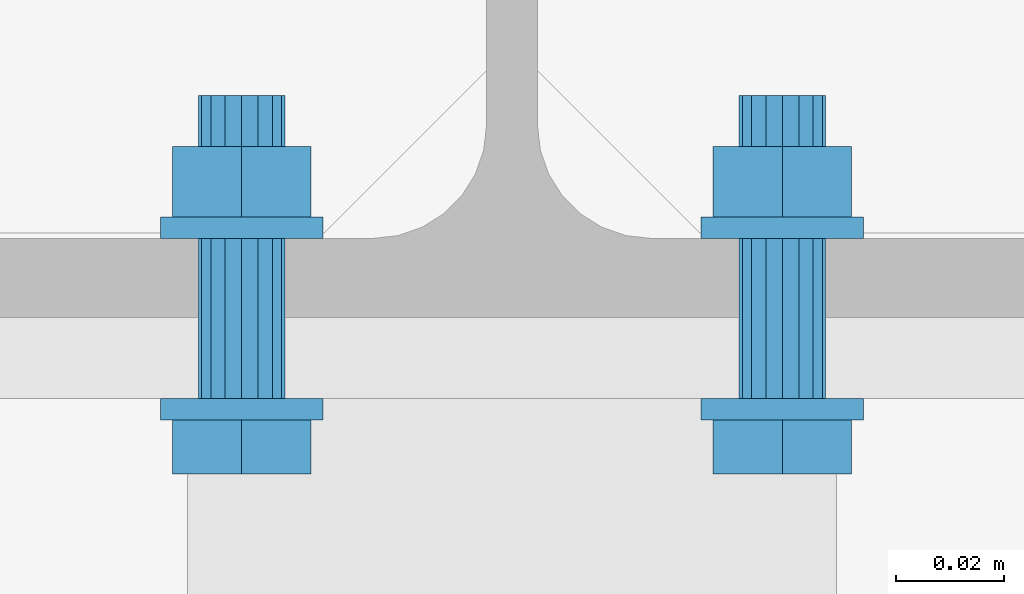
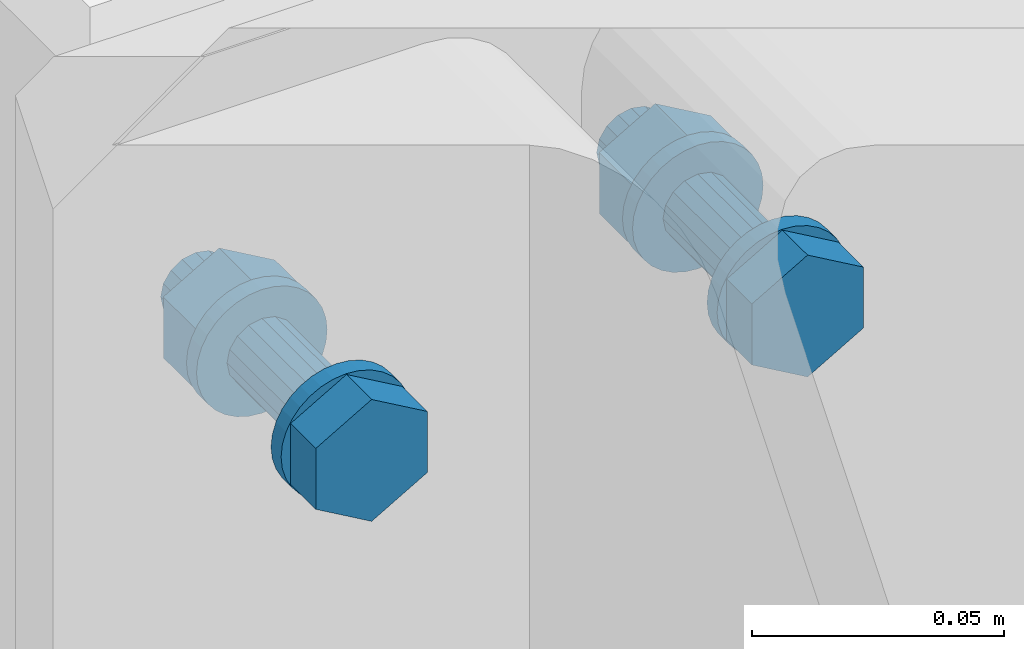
# Not in any storey, part 30 of 50: 2 mechanical fasteners.
"""IFC4 model written with IfcOpenShell, lengths in metres."""

from ifc_helpers import new_model, entity, si_unit, converted_unit, derived_unit, direction, origin, origin_with_axes, place, context, project, spatial, faceted_brep, element, save


model = new_model("IFC4")

# Units and contexts
model_context = context("Model", 3, precision=1e-05, world=origin(), true_north=direction((6.123233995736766e-17, 1.0)))
ifc_project = project(units=[si_unit("LENGTHUNIT", "METRE"), si_unit("AREAUNIT", "SQUARE_METRE"), converted_unit("PLANEANGLEUNIT", "DEGREE", entity("IfcPlaneAngleMeasure", 0.017453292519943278), si_unit("PLANEANGLEUNIT", "RADIAN"), dimensions=[0, 0, 0, 0, 0, 0, 0]), si_unit("VOLUMEUNIT", "CUBIC_METRE"), derived_unit("THERMALTRANSMITTANCEUNIT", [(si_unit("MASSUNIT", "GRAM", prefix="KILO"), 1), (si_unit("THERMODYNAMICTEMPERATUREUNIT", "KELVIN"), -1), (si_unit("TIMEUNIT", "SECOND"), -3)])], contexts=[model_context])

# Site
site_placement = place(None, origin())
site = spatial("IfcSite", under=ifc_project, at=site_placement, Name="Default", CompositionType="ELEMENT")

# Mechanical fasteners
mechanical_fastener_1_placement = place(site_placement, origin_with_axes())
element("IfcMechanicalFastener", 1, at=mechanical_fastener_1_placement, inside=site, ObjectType="Bolt#1", NominalDiameter=0.016, NominalLength=0.06, context=model_context, shape_type="Brep", body=[
    faceted_brep([(3.225144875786, 17.685767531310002, 5.895), (3.225144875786, 17.68976753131, 5.895), (3.2254330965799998, 17.68976753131, 5.89207364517), (3.2254330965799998, 17.685767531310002, 5.89207364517), (3.226286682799, 17.68976753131, 5.889259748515), (3.226286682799, 17.685767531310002, 5.889259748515), (3.227672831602, 17.68976753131, 5.886666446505), (3.227672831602, 17.685767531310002, 5.886666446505), (3.229538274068, 17.68976753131, 5.884393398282), (3.229538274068, 17.685767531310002, 5.884393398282), (3.231811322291, 17.68976753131, 5.882527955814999), (3.231811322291, 17.685767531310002, 5.882527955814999), (3.234404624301, 17.68976753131, 5.881141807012), (3.234404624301, 17.685767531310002, 5.881141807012), (3.2372185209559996, 17.68976753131, 5.880288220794), (3.2372185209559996, 17.685767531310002, 5.880288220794), (3.2401448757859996, 17.68976753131, 5.88), (3.2401448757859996, 17.685767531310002, 5.88), (3.2430712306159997, 17.68976753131, 5.880288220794), (3.2430712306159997, 17.685767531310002, 5.880288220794), (3.245885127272, 17.68976753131, 5.881141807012), (3.245885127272, 17.685767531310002, 5.881141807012), (3.248478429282, 17.68976753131, 5.882527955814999), (3.248478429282, 17.685767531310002, 5.882527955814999), (3.250751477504, 17.68976753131, 5.884393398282), (3.250751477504, 17.685767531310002, 5.884393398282), (3.252616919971, 17.68976753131, 5.886666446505), (3.252616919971, 17.685767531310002, 5.886666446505), (3.254003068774, 17.68976753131, 5.889259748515), (3.254003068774, 17.685767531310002, 5.889259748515), (3.254856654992, 17.68976753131, 5.89207364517), (3.254856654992, 17.685767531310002, 5.89207364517), (3.2551448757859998, 17.68976753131, 5.895), (3.2551448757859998, 17.685767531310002, 5.895), (3.254856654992, 17.68976753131, 5.897926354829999), (3.254856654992, 17.685767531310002, 5.897926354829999), (3.254003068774, 17.68976753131, 5.900740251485), (3.254003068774, 17.685767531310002, 5.900740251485), (3.252616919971, 17.68976753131, 5.903333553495), (3.252616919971, 17.685767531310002, 5.903333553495), (3.250751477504, 17.68976753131, 5.9056066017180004), (3.250751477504, 17.685767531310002, 5.9056066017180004), (3.248478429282, 17.68976753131, 5.907472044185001), (3.248478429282, 17.685767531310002, 5.907472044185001), (3.245885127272, 17.68976753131, 5.908858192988), (3.245885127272, 17.685767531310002, 5.908858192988), (3.2430712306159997, 17.68976753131, 5.909711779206), (3.2430712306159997, 17.685767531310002, 5.909711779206), (3.2401448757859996, 17.68976753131, 5.91), (3.2401448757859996, 17.685767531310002, 5.91), (3.2372185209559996, 17.68976753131, 5.909711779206), (3.2372185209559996, 17.685767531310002, 5.909711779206), (3.234404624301, 17.68976753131, 5.908858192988), (3.234404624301, 17.685767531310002, 5.908858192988), (3.231811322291, 17.68976753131, 5.907472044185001), (3.231811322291, 17.685767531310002, 5.907472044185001), (3.229538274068, 17.68976753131, 5.9056066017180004), (3.229538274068, 17.685767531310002, 5.9056066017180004), (3.227672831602, 17.68976753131, 5.903333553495), (3.227672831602, 17.685767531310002, 5.903333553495), (3.226286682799, 17.68976753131, 5.900740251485), (3.226286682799, 17.685767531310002, 5.900740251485), (3.2254330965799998, 17.68976753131, 5.897926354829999), (3.2254330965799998, 17.685767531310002, 5.897926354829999)], [[[0, 1, 2, 3]], [[3, 2, 4, 5]], [[5, 4, 6, 7]], [[7, 6, 8, 9]], [[9, 8, 10, 11]], [[11, 10, 12, 13]], [[13, 12, 14, 15]], [[15, 14, 16, 17]], [[17, 16, 18, 19]], [[19, 18, 20, 21]], [[21, 20, 22, 23]], [[23, 22, 24, 25]], [[25, 24, 26, 27]], [[27, 26, 28, 29]], [[29, 28, 30, 31]], [[31, 30, 32, 33]], [[33, 32, 34, 35]], [[35, 34, 36, 37]], [[37, 36, 38, 39]], [[39, 38, 40, 41]], [[41, 40, 42, 43]], [[43, 42, 44, 45]], [[45, 44, 46, 47]], [[47, 46, 48, 49]], [[49, 48, 50, 51]], [[51, 50, 52, 53]], [[53, 52, 54, 55]], [[55, 54, 56, 57]], [[57, 56, 58, 59]], [[59, 58, 60, 61]], [[61, 60, 62, 63]], [[63, 62, 1, 0]], [[0, 3, 5, 7, 9, 11, 13, 15, 17, 19, 21, 23, 25, 27, 29, 31, 33, 35, 37, 39, 41, 43, 45, 47, 49, 51, 53, 55, 57, 59, 61, 63]], [[1, 62, 60, 58, 56, 54, 52, 50, 48, 46, 44, 42, 40, 38, 36, 34, 32, 30, 28, 26, 24, 22, 20, 18, 16, 14, 12, 10, 8, 6, 4, 2]]]),
    faceted_brep([(3.2529447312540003, 17.685767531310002, 5.88761), (3.2529447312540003, 17.67576753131, 5.88761), (3.2401448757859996, 17.67576753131, 5.8802200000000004), (3.2401448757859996, 17.685767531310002, 5.8802200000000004), (3.227345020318, 17.67576753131, 5.88761), (3.227345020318, 17.685767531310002, 5.88761), (3.227345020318, 17.67576753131, 5.9023900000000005), (3.227345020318, 17.685767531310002, 5.9023900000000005), (3.2401448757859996, 17.67576753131, 5.90978), (3.2401448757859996, 17.685767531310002, 5.90978), (3.2529447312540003, 17.67576753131, 5.9023900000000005), (3.2529447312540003, 17.685767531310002, 5.9023900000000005)], [[[0, 1, 2, 3]], [[3, 2, 4, 5]], [[5, 4, 6, 7]], [[7, 6, 8, 9]], [[9, 8, 10, 11]], [[11, 10, 1, 0]], [[4, 2, 1, 10, 8, 6]], [[0, 3, 5, 7, 9, 11]]]),
    faceted_brep([(3.2321448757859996, 17.68976753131, 5.895), (3.2321448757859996, 17.71936753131, 5.895), (3.232753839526, 17.71936753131, 5.891938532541), (3.232753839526, 17.68976753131, 5.891938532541), (3.234488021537, 17.71936753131, 5.889343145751), (3.234488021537, 17.68976753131, 5.889343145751), (3.237083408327, 17.71936753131, 5.88760896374), (3.237083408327, 17.68976753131, 5.88760896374), (3.2401448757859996, 17.71936753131, 5.887), (3.2401448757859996, 17.68976753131, 5.887), (3.243206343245, 17.71936753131, 5.88760896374), (3.243206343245, 17.68976753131, 5.88760896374), (3.2458017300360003, 17.71936753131, 5.889343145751), (3.2458017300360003, 17.68976753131, 5.889343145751), (3.2475359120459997, 17.71936753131, 5.891938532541), (3.2475359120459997, 17.68976753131, 5.891938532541), (3.2481448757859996, 17.71936753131, 5.895), (3.2481448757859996, 17.68976753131, 5.895), (3.2475359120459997, 17.71936753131, 5.898061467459), (3.2475359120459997, 17.68976753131, 5.898061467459), (3.2458017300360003, 17.71936753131, 5.900656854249), (3.2458017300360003, 17.68976753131, 5.900656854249), (3.243206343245, 17.71936753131, 5.90239103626), (3.243206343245, 17.68976753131, 5.90239103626), (3.2401448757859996, 17.71936753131, 5.903), (3.2401448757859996, 17.68976753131, 5.903), (3.237083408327, 17.71936753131, 5.90239103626), (3.237083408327, 17.68976753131, 5.90239103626), (3.234488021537, 17.71936753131, 5.900656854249), (3.234488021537, 17.68976753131, 5.900656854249), (3.232753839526, 17.71936753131, 5.898061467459), (3.232753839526, 17.68976753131, 5.898061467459)], [[[0, 1, 2, 3]], [[3, 2, 4, 5]], [[5, 4, 6, 7]], [[7, 6, 8, 9]], [[9, 8, 10, 11]], [[11, 10, 12, 13]], [[13, 12, 14, 15]], [[15, 14, 16, 17]], [[17, 16, 18, 19]], [[19, 18, 20, 21]], [[21, 20, 22, 23]], [[23, 22, 24, 25]], [[25, 24, 26, 27]], [[27, 26, 28, 29]], [[29, 28, 30, 31]], [[31, 30, 1, 0]], [[0, 3, 5, 7, 9, 11, 13, 15, 17, 19, 21, 23, 25, 27, 29, 31]], [[1, 30, 28, 26, 24, 22, 20, 18, 16, 14, 12, 10, 8, 6, 4, 2]]]),
    faceted_brep([(3.225144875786, 17.71936753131, 5.895), (3.225144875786, 17.72336753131, 5.895), (3.2254330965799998, 17.72336753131, 5.89207364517), (3.2254330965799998, 17.71936753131, 5.89207364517), (3.226286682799, 17.72336753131, 5.889259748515), (3.226286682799, 17.71936753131, 5.889259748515), (3.227672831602, 17.72336753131, 5.886666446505), (3.227672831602, 17.71936753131, 5.886666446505), (3.229538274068, 17.72336753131, 5.884393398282), (3.229538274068, 17.71936753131, 5.884393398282), (3.231811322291, 17.72336753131, 5.882527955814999), (3.231811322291, 17.71936753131, 5.882527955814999), (3.234404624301, 17.72336753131, 5.881141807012), (3.234404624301, 17.71936753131, 5.881141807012), (3.2372185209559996, 17.72336753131, 5.880288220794), (3.2372185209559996, 17.71936753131, 5.880288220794), (3.2401448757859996, 17.72336753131, 5.88), (3.2401448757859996, 17.71936753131, 5.88), (3.2430712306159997, 17.72336753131, 5.880288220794), (3.2430712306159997, 17.71936753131, 5.880288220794), (3.245885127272, 17.72336753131, 5.881141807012), (3.245885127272, 17.71936753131, 5.881141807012), (3.248478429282, 17.72336753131, 5.882527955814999), (3.248478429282, 17.71936753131, 5.882527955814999), (3.250751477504, 17.72336753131, 5.884393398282), (3.250751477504, 17.71936753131, 5.884393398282), (3.252616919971, 17.72336753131, 5.886666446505), (3.252616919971, 17.71936753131, 5.886666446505), (3.254003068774, 17.72336753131, 5.889259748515), (3.254003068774, 17.71936753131, 5.889259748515), (3.254856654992, 17.72336753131, 5.89207364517), (3.254856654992, 17.71936753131, 5.89207364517), (3.2551448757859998, 17.72336753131, 5.895), (3.2551448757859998, 17.71936753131, 5.895), (3.254856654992, 17.72336753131, 5.897926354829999), (3.254856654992, 17.71936753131, 5.897926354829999), (3.254003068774, 17.72336753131, 5.900740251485), (3.254003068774, 17.71936753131, 5.900740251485), (3.252616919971, 17.72336753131, 5.903333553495), (3.252616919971, 17.71936753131, 5.903333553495), (3.250751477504, 17.72336753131, 5.9056066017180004), (3.250751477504, 17.71936753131, 5.9056066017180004), (3.248478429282, 17.72336753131, 5.907472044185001), (3.248478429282, 17.71936753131, 5.907472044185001), (3.245885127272, 17.72336753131, 5.908858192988), (3.245885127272, 17.71936753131, 5.908858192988), (3.2430712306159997, 17.72336753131, 5.909711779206), (3.2430712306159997, 17.71936753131, 5.909711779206), (3.2401448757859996, 17.72336753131, 5.91), (3.2401448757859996, 17.71936753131, 5.91), (3.2372185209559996, 17.72336753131, 5.909711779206), (3.2372185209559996, 17.71936753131, 5.909711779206), (3.234404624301, 17.72336753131, 5.908858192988), (3.234404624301, 17.71936753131, 5.908858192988), (3.231811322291, 17.72336753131, 5.907472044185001), (3.231811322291, 17.71936753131, 5.907472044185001), (3.229538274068, 17.72336753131, 5.9056066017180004), (3.229538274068, 17.71936753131, 5.9056066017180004), (3.227672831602, 17.72336753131, 5.903333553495), (3.227672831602, 17.71936753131, 5.903333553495), (3.226286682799, 17.72336753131, 5.900740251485), (3.226286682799, 17.71936753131, 5.900740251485), (3.2254330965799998, 17.72336753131, 5.897926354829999), (3.2254330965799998, 17.71936753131, 5.897926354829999)], [[[0, 1, 2, 3]], [[3, 2, 4, 5]], [[5, 4, 6, 7]], [[7, 6, 8, 9]], [[9, 8, 10, 11]], [[11, 10, 12, 13]], [[13, 12, 14, 15]], [[15, 14, 16, 17]], [[17, 16, 18, 19]], [[19, 18, 20, 21]], [[21, 20, 22, 23]], [[23, 22, 24, 25]], [[25, 24, 26, 27]], [[27, 26, 28, 29]], [[29, 28, 30, 31]], [[31, 30, 32, 33]], [[33, 32, 34, 35]], [[35, 34, 36, 37]], [[37, 36, 38, 39]], [[39, 38, 40, 41]], [[41, 40, 42, 43]], [[43, 42, 44, 45]], [[45, 44, 46, 47]], [[47, 46, 48, 49]], [[49, 48, 50, 51]], [[51, 50, 52, 53]], [[53, 52, 54, 55]], [[55, 54, 56, 57]], [[57, 56, 58, 59]], [[59, 58, 60, 61]], [[61, 60, 62, 63]], [[63, 62, 1, 0]], [[0, 3, 5, 7, 9, 11, 13, 15, 17, 19, 21, 23, 25, 27, 29, 31, 33, 35, 37, 39, 41, 43, 45, 47, 49, 51, 53, 55, 57, 59, 61, 63]], [[1, 62, 60, 58, 56, 54, 52, 50, 48, 46, 44, 42, 40, 38, 36, 34, 32, 30, 28, 26, 24, 22, 20, 18, 16, 14, 12, 10, 8, 6, 4, 2]]]),
    faceted_brep([(3.2529447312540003, 17.736367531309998, 5.88761), (3.2529447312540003, 17.72336753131, 5.88761), (3.2401448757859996, 17.72336753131, 5.8802200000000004), (3.2401448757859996, 17.736367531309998, 5.8802200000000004), (3.227345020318, 17.72336753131, 5.88761), (3.227345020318, 17.736367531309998, 5.88761), (3.227345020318, 17.72336753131, 5.9023900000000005), (3.227345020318, 17.736367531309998, 5.9023900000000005), (3.2401448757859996, 17.72336753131, 5.90978), (3.2401448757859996, 17.736367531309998, 5.90978), (3.2529447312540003, 17.72336753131, 5.9023900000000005), (3.2529447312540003, 17.736367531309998, 5.9023900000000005)], [[[0, 1, 2, 3]], [[3, 2, 4, 5]], [[5, 4, 6, 7]], [[7, 6, 8, 9]], [[9, 8, 10, 11]], [[11, 10, 1, 0]], [[4, 2, 1, 10, 8, 6]], [[0, 3, 5, 7, 9, 11]]]),
    faceted_brep([(3.2321448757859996, 17.736367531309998, 5.895), (3.2321448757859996, 17.74576753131, 5.895), (3.232753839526, 17.74576753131, 5.891938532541), (3.232753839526, 17.736367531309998, 5.891938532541), (3.234488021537, 17.74576753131, 5.889343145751), (3.234488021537, 17.736367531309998, 5.889343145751), (3.237083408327, 17.74576753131, 5.88760896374), (3.237083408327, 17.736367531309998, 5.88760896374), (3.2401448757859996, 17.74576753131, 5.887), (3.2401448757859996, 17.736367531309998, 5.887), (3.243206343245, 17.74576753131, 5.88760896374), (3.243206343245, 17.736367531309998, 5.88760896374), (3.2458017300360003, 17.74576753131, 5.889343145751), (3.2458017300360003, 17.736367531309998, 5.889343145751), (3.2475359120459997, 17.74576753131, 5.891938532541), (3.2475359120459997, 17.736367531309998, 5.891938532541), (3.2481448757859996, 17.74576753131, 5.895), (3.2481448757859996, 17.736367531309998, 5.895), (3.2475359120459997, 17.74576753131, 5.898061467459), (3.2475359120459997, 17.736367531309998, 5.898061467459), (3.2458017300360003, 17.74576753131, 5.900656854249), (3.2458017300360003, 17.736367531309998, 5.900656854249), (3.243206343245, 17.74576753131, 5.90239103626), (3.243206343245, 17.736367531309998, 5.90239103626), (3.2401448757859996, 17.74576753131, 5.903), (3.2401448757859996, 17.736367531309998, 5.903), (3.237083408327, 17.74576753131, 5.90239103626), (3.237083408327, 17.736367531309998, 5.90239103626), (3.234488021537, 17.74576753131, 5.900656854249), (3.234488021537, 17.736367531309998, 5.900656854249), (3.232753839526, 17.74576753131, 5.898061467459), (3.232753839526, 17.736367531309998, 5.898061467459)], [[[0, 1, 2, 3]], [[3, 2, 4, 5]], [[5, 4, 6, 7]], [[7, 6, 8, 9]], [[9, 8, 10, 11]], [[11, 10, 12, 13]], [[13, 12, 14, 15]], [[15, 14, 16, 17]], [[17, 16, 18, 19]], [[19, 18, 20, 21]], [[21, 20, 22, 23]], [[23, 22, 24, 25]], [[25, 24, 26, 27]], [[27, 26, 28, 29]], [[29, 28, 30, 31]], [[31, 30, 1, 0]], [[0, 3, 5, 7, 9, 11, 13, 15, 17, 19, 21, 23, 25, 27, 29, 31]], [[1, 30, 28, 26, 24, 22, 20, 18, 16, 14, 12, 10, 8, 6, 4, 2]]]),
])
mechanical_fastener_2_placement = place(site_placement, origin_with_axes())
element("IfcMechanicalFastener", 2, at=mechanical_fastener_2_placement, inside=site, ObjectType="Bolt#2", NominalDiameter=0.016, NominalLength=0.06, context=model_context, shape_type="Brep", body=[
    faceted_brep([(3.125144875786, 17.685767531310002, 5.895), (3.125144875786, 17.68976753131, 5.895), (3.12543309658, 17.68976753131, 5.89207364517), (3.12543309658, 17.685767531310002, 5.89207364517), (3.126286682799, 17.68976753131, 5.889259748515), (3.126286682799, 17.685767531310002, 5.889259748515), (3.1276728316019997, 17.68976753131, 5.886666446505), (3.1276728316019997, 17.685767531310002, 5.886666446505), (3.129538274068, 17.68976753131, 5.884393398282), (3.129538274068, 17.685767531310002, 5.884393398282), (3.131811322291, 17.68976753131, 5.882527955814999), (3.131811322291, 17.685767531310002, 5.882527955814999), (3.1344046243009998, 17.68976753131, 5.881141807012), (3.1344046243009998, 17.685767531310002, 5.881141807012), (3.137218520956, 17.68976753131, 5.880288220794), (3.137218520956, 17.685767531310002, 5.880288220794), (3.140144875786, 17.68976753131, 5.88), (3.140144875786, 17.685767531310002, 5.88), (3.143071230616, 17.68976753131, 5.880288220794), (3.143071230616, 17.685767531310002, 5.880288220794), (3.145885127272, 17.68976753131, 5.881141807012), (3.145885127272, 17.685767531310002, 5.881141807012), (3.148478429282, 17.68976753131, 5.882527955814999), (3.148478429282, 17.685767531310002, 5.882527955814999), (3.150751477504, 17.68976753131, 5.884393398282), (3.150751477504, 17.685767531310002, 5.884393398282), (3.152616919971, 17.68976753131, 5.886666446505), (3.152616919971, 17.685767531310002, 5.886666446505), (3.154003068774, 17.68976753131, 5.889259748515), (3.154003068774, 17.685767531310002, 5.889259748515), (3.1548566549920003, 17.68976753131, 5.89207364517), (3.1548566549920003, 17.685767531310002, 5.89207364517), (3.1551448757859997, 17.68976753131, 5.895), (3.1551448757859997, 17.685767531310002, 5.895), (3.1548566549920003, 17.68976753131, 5.897926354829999), (3.1548566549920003, 17.685767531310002, 5.897926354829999), (3.154003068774, 17.68976753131, 5.900740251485), (3.154003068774, 17.685767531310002, 5.900740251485), (3.152616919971, 17.68976753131, 5.903333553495), (3.152616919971, 17.685767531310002, 5.903333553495), (3.150751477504, 17.68976753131, 5.9056066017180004), (3.150751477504, 17.685767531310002, 5.9056066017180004), (3.148478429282, 17.68976753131, 5.907472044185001), (3.148478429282, 17.685767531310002, 5.907472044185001), (3.145885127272, 17.68976753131, 5.908858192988), (3.145885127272, 17.685767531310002, 5.908858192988), (3.143071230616, 17.68976753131, 5.909711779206), (3.143071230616, 17.685767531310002, 5.909711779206), (3.140144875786, 17.68976753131, 5.91), (3.140144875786, 17.685767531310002, 5.91), (3.137218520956, 17.68976753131, 5.909711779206), (3.137218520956, 17.685767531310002, 5.909711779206), (3.1344046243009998, 17.68976753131, 5.908858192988), (3.1344046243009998, 17.685767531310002, 5.908858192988), (3.131811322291, 17.68976753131, 5.907472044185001), (3.131811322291, 17.685767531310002, 5.907472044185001), (3.129538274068, 17.68976753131, 5.9056066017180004), (3.129538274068, 17.685767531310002, 5.9056066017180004), (3.1276728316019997, 17.68976753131, 5.903333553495), (3.1276728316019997, 17.685767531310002, 5.903333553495), (3.126286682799, 17.68976753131, 5.900740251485), (3.126286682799, 17.685767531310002, 5.900740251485), (3.12543309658, 17.68976753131, 5.897926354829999), (3.12543309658, 17.685767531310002, 5.897926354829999)], [[[0, 1, 2, 3]], [[3, 2, 4, 5]], [[5, 4, 6, 7]], [[7, 6, 8, 9]], [[9, 8, 10, 11]], [[11, 10, 12, 13]], [[13, 12, 14, 15]], [[15, 14, 16, 17]], [[17, 16, 18, 19]], [[19, 18, 20, 21]], [[21, 20, 22, 23]], [[23, 22, 24, 25]], [[25, 24, 26, 27]], [[27, 26, 28, 29]], [[29, 28, 30, 31]], [[31, 30, 32, 33]], [[33, 32, 34, 35]], [[35, 34, 36, 37]], [[37, 36, 38, 39]], [[39, 38, 40, 41]], [[41, 40, 42, 43]], [[43, 42, 44, 45]], [[45, 44, 46, 47]], [[47, 46, 48, 49]], [[49, 48, 50, 51]], [[51, 50, 52, 53]], [[53, 52, 54, 55]], [[55, 54, 56, 57]], [[57, 56, 58, 59]], [[59, 58, 60, 61]], [[61, 60, 62, 63]], [[63, 62, 1, 0]], [[0, 3, 5, 7, 9, 11, 13, 15, 17, 19, 21, 23, 25, 27, 29, 31, 33, 35, 37, 39, 41, 43, 45, 47, 49, 51, 53, 55, 57, 59, 61, 63]], [[1, 62, 60, 58, 56, 54, 52, 50, 48, 46, 44, 42, 40, 38, 36, 34, 32, 30, 28, 26, 24, 22, 20, 18, 16, 14, 12, 10, 8, 6, 4, 2]]]),
    faceted_brep([(3.152944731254, 17.685767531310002, 5.88761), (3.152944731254, 17.67576753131, 5.88761), (3.140144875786, 17.67576753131, 5.8802200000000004), (3.140144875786, 17.685767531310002, 5.8802200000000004), (3.127345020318, 17.67576753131, 5.88761), (3.127345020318, 17.685767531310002, 5.88761), (3.127345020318, 17.67576753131, 5.9023900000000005), (3.127345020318, 17.685767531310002, 5.9023900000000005), (3.140144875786, 17.67576753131, 5.90978), (3.140144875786, 17.685767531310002, 5.90978), (3.152944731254, 17.67576753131, 5.9023900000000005), (3.152944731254, 17.685767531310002, 5.9023900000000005)], [[[0, 1, 2, 3]], [[3, 2, 4, 5]], [[5, 4, 6, 7]], [[7, 6, 8, 9]], [[9, 8, 10, 11]], [[11, 10, 1, 0]], [[4, 2, 1, 10, 8, 6]], [[0, 3, 5, 7, 9, 11]]]),
    faceted_brep([(3.132144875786, 17.68976753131, 5.895), (3.132144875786, 17.71936753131, 5.895), (3.132753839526, 17.71936753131, 5.891938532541), (3.132753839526, 17.68976753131, 5.891938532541), (3.134488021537, 17.71936753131, 5.889343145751), (3.134488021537, 17.68976753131, 5.889343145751), (3.1370834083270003, 17.71936753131, 5.88760896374), (3.1370834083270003, 17.68976753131, 5.88760896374), (3.140144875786, 17.71936753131, 5.887), (3.140144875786, 17.68976753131, 5.887), (3.143206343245, 17.71936753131, 5.88760896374), (3.143206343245, 17.68976753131, 5.88760896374), (3.145801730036, 17.71936753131, 5.889343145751), (3.145801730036, 17.68976753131, 5.889343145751), (3.1475359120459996, 17.71936753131, 5.891938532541), (3.1475359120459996, 17.68976753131, 5.891938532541), (3.148144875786, 17.71936753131, 5.895), (3.148144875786, 17.68976753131, 5.895), (3.1475359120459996, 17.71936753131, 5.898061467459), (3.1475359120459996, 17.68976753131, 5.898061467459), (3.145801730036, 17.71936753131, 5.900656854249), (3.145801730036, 17.68976753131, 5.900656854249), (3.143206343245, 17.71936753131, 5.90239103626), (3.143206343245, 17.68976753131, 5.90239103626), (3.140144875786, 17.71936753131, 5.903), (3.140144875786, 17.68976753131, 5.903), (3.1370834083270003, 17.71936753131, 5.90239103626), (3.1370834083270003, 17.68976753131, 5.90239103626), (3.134488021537, 17.71936753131, 5.900656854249), (3.134488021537, 17.68976753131, 5.900656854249), (3.132753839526, 17.71936753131, 5.898061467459), (3.132753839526, 17.68976753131, 5.898061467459)], [[[0, 1, 2, 3]], [[3, 2, 4, 5]], [[5, 4, 6, 7]], [[7, 6, 8, 9]], [[9, 8, 10, 11]], [[11, 10, 12, 13]], [[13, 12, 14, 15]], [[15, 14, 16, 17]], [[17, 16, 18, 19]], [[19, 18, 20, 21]], [[21, 20, 22, 23]], [[23, 22, 24, 25]], [[25, 24, 26, 27]], [[27, 26, 28, 29]], [[29, 28, 30, 31]], [[31, 30, 1, 0]], [[0, 3, 5, 7, 9, 11, 13, 15, 17, 19, 21, 23, 25, 27, 29, 31]], [[1, 30, 28, 26, 24, 22, 20, 18, 16, 14, 12, 10, 8, 6, 4, 2]]]),
    faceted_brep([(3.125144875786, 17.71936753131, 5.895), (3.125144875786, 17.72336753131, 5.895), (3.12543309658, 17.72336753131, 5.89207364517), (3.12543309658, 17.71936753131, 5.89207364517), (3.126286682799, 17.72336753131, 5.889259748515), (3.126286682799, 17.71936753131, 5.889259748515), (3.1276728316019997, 17.72336753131, 5.886666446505), (3.1276728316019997, 17.71936753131, 5.886666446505), (3.129538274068, 17.72336753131, 5.884393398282), (3.129538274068, 17.71936753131, 5.884393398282), (3.131811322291, 17.72336753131, 5.882527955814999), (3.131811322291, 17.71936753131, 5.882527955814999), (3.1344046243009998, 17.72336753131, 5.881141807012), (3.1344046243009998, 17.71936753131, 5.881141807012), (3.137218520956, 17.72336753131, 5.880288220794), (3.137218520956, 17.71936753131, 5.880288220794), (3.140144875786, 17.72336753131, 5.88), (3.140144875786, 17.71936753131, 5.88), (3.143071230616, 17.72336753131, 5.880288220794), (3.143071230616, 17.71936753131, 5.880288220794), (3.145885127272, 17.72336753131, 5.881141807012), (3.145885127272, 17.71936753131, 5.881141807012), (3.148478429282, 17.72336753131, 5.882527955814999), (3.148478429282, 17.71936753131, 5.882527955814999), (3.150751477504, 17.72336753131, 5.884393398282), (3.150751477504, 17.71936753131, 5.884393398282), (3.152616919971, 17.72336753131, 5.886666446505), (3.152616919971, 17.71936753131, 5.886666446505), (3.154003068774, 17.72336753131, 5.889259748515), (3.154003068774, 17.71936753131, 5.889259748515), (3.1548566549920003, 17.72336753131, 5.89207364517), (3.1548566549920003, 17.71936753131, 5.89207364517), (3.1551448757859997, 17.72336753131, 5.895), (3.1551448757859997, 17.71936753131, 5.895), (3.1548566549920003, 17.72336753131, 5.897926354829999), (3.1548566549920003, 17.71936753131, 5.897926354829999), (3.154003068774, 17.72336753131, 5.900740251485), (3.154003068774, 17.71936753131, 5.900740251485), (3.152616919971, 17.72336753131, 5.903333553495), (3.152616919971, 17.71936753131, 5.903333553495), (3.150751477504, 17.72336753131, 5.9056066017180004), (3.150751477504, 17.71936753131, 5.9056066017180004), (3.148478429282, 17.72336753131, 5.907472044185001), (3.148478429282, 17.71936753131, 5.907472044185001), (3.145885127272, 17.72336753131, 5.908858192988), (3.145885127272, 17.71936753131, 5.908858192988), (3.143071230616, 17.72336753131, 5.909711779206), (3.143071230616, 17.71936753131, 5.909711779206), (3.140144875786, 17.72336753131, 5.91), (3.140144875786, 17.71936753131, 5.91), (3.137218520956, 17.72336753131, 5.909711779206), (3.137218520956, 17.71936753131, 5.909711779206), (3.1344046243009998, 17.72336753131, 5.908858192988), (3.1344046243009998, 17.71936753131, 5.908858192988), (3.131811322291, 17.72336753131, 5.907472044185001), (3.131811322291, 17.71936753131, 5.907472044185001), (3.129538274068, 17.72336753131, 5.9056066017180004), (3.129538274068, 17.71936753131, 5.9056066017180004), (3.1276728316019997, 17.72336753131, 5.903333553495), (3.1276728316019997, 17.71936753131, 5.903333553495), (3.126286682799, 17.72336753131, 5.900740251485), (3.126286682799, 17.71936753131, 5.900740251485), (3.12543309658, 17.72336753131, 5.897926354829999), (3.12543309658, 17.71936753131, 5.897926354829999)], [[[0, 1, 2, 3]], [[3, 2, 4, 5]], [[5, 4, 6, 7]], [[7, 6, 8, 9]], [[9, 8, 10, 11]], [[11, 10, 12, 13]], [[13, 12, 14, 15]], [[15, 14, 16, 17]], [[17, 16, 18, 19]], [[19, 18, 20, 21]], [[21, 20, 22, 23]], [[23, 22, 24, 25]], [[25, 24, 26, 27]], [[27, 26, 28, 29]], [[29, 28, 30, 31]], [[31, 30, 32, 33]], [[33, 32, 34, 35]], [[35, 34, 36, 37]], [[37, 36, 38, 39]], [[39, 38, 40, 41]], [[41, 40, 42, 43]], [[43, 42, 44, 45]], [[45, 44, 46, 47]], [[47, 46, 48, 49]], [[49, 48, 50, 51]], [[51, 50, 52, 53]], [[53, 52, 54, 55]], [[55, 54, 56, 57]], [[57, 56, 58, 59]], [[59, 58, 60, 61]], [[61, 60, 62, 63]], [[63, 62, 1, 0]], [[0, 3, 5, 7, 9, 11, 13, 15, 17, 19, 21, 23, 25, 27, 29, 31, 33, 35, 37, 39, 41, 43, 45, 47, 49, 51, 53, 55, 57, 59, 61, 63]], [[1, 62, 60, 58, 56, 54, 52, 50, 48, 46, 44, 42, 40, 38, 36, 34, 32, 30, 28, 26, 24, 22, 20, 18, 16, 14, 12, 10, 8, 6, 4, 2]]]),
    faceted_brep([(3.152944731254, 17.736367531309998, 5.88761), (3.152944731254, 17.72336753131, 5.88761), (3.140144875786, 17.72336753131, 5.8802200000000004), (3.140144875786, 17.736367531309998, 5.8802200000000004), (3.127345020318, 17.72336753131, 5.88761), (3.127345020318, 17.736367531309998, 5.88761), (3.127345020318, 17.72336753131, 5.9023900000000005), (3.127345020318, 17.736367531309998, 5.9023900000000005), (3.140144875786, 17.72336753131, 5.90978), (3.140144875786, 17.736367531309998, 5.90978), (3.152944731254, 17.72336753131, 5.9023900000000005), (3.152944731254, 17.736367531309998, 5.9023900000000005)], [[[0, 1, 2, 3]], [[3, 2, 4, 5]], [[5, 4, 6, 7]], [[7, 6, 8, 9]], [[9, 8, 10, 11]], [[11, 10, 1, 0]], [[4, 2, 1, 10, 8, 6]], [[0, 3, 5, 7, 9, 11]]]),
    faceted_brep([(3.132144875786, 17.736367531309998, 5.895), (3.132144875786, 17.74576753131, 5.895), (3.132753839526, 17.74576753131, 5.891938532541), (3.132753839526, 17.736367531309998, 5.891938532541), (3.134488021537, 17.74576753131, 5.889343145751), (3.134488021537, 17.736367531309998, 5.889343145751), (3.1370834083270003, 17.74576753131, 5.88760896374), (3.1370834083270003, 17.736367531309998, 5.88760896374), (3.140144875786, 17.74576753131, 5.887), (3.140144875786, 17.736367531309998, 5.887), (3.143206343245, 17.74576753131, 5.88760896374), (3.143206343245, 17.736367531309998, 5.88760896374), (3.145801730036, 17.74576753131, 5.889343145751), (3.145801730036, 17.736367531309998, 5.889343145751), (3.1475359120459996, 17.74576753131, 5.891938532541), (3.1475359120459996, 17.736367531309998, 5.891938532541), (3.148144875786, 17.74576753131, 5.895), (3.148144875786, 17.736367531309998, 5.895), (3.1475359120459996, 17.74576753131, 5.898061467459), (3.1475359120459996, 17.736367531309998, 5.898061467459), (3.145801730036, 17.74576753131, 5.900656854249), (3.145801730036, 17.736367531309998, 5.900656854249), (3.143206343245, 17.74576753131, 5.90239103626), (3.143206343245, 17.736367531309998, 5.90239103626), (3.140144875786, 17.74576753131, 5.903), (3.140144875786, 17.736367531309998, 5.903), (3.1370834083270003, 17.74576753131, 5.90239103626), (3.1370834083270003, 17.736367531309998, 5.90239103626), (3.134488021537, 17.74576753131, 5.900656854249), (3.134488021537, 17.736367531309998, 5.900656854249), (3.132753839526, 17.74576753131, 5.898061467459), (3.132753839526, 17.736367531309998, 5.898061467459)], [[[0, 1, 2, 3]], [[3, 2, 4, 5]], [[5, 4, 6, 7]], [[7, 6, 8, 9]], [[9, 8, 10, 11]], [[11, 10, 12, 13]], [[13, 12, 14, 15]], [[15, 14, 16, 17]], [[17, 16, 18, 19]], [[19, 18, 20, 21]], [[21, 20, 22, 23]], [[23, 22, 24, 25]], [[25, 24, 26, 27]], [[27, 26, 28, 29]], [[29, 28, 30, 31]], [[31, 30, 1, 0]], [[0, 3, 5, 7, 9, 11, 13, 15, 17, 19, 21, 23, 25, 27, 29, 31]], [[1, 30, 28, 26, 24, 22, 20, 18, 16, 14, 12, 10, 8, 6, 4, 2]]]),
])

save(model, "model.ifc")
